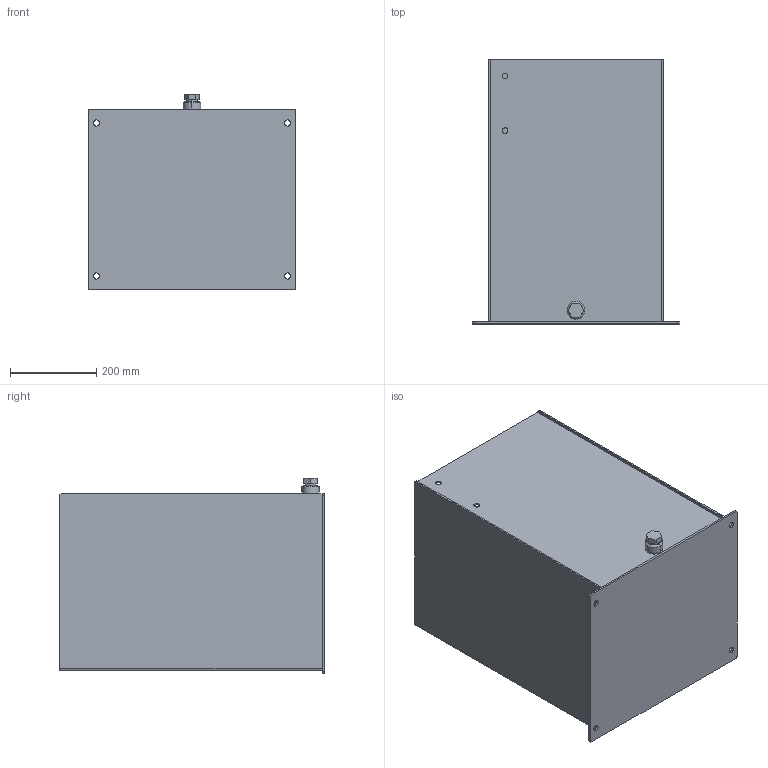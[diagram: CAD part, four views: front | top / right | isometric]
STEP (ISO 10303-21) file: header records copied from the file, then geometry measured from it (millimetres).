
FILE_DESCRIPTION (( 'STEP AP214' ), '1' );
FILE_NAME ('TV-148.STEP', '2020-02-04T13:19:39', ( '' ), ( '' ), 'SwSTEP 2.0', 'SolidWorks 2013', '' );
FILE_SCHEMA (( 'AUTOMOTIVE_DESIGN' ));
Length unit declared in the file: inch
Products named in the file (7): #12 SAE DRAIN; #12 SAE PLUG; TV-GST; TV-148; TV-148BTM; TV-148FR; TV-148BDY
Assembly tree (9 placements, depth 2):
  TV-148
    TV-148BTM
    TV-148FR
    TV-148BDY
    TV-GST  x4
    #12 SAE DRAIN
    #12 SAE PLUG
Bounding box: 482.6 x 614.36 x 454.02 mm (x, y, z)
Volume: 4404230.5 mm3; surface area: 2433994.7 mm2
Topology: 9 solids, 9 shells, 115 faces, 262 edges, 168 vertices
Faces by surface type: plane 67, cylinder 42, cone 6
Entity records: 2992 total; most frequent: DIRECTION 488, CARTESIAN_POINT 443, ORIENTED_EDGE 416, EDGE_CURVE 208, AXIS2_PLACEMENT_3D 177, VECTOR 134, LINE 134, VERTEX_POINT 132
